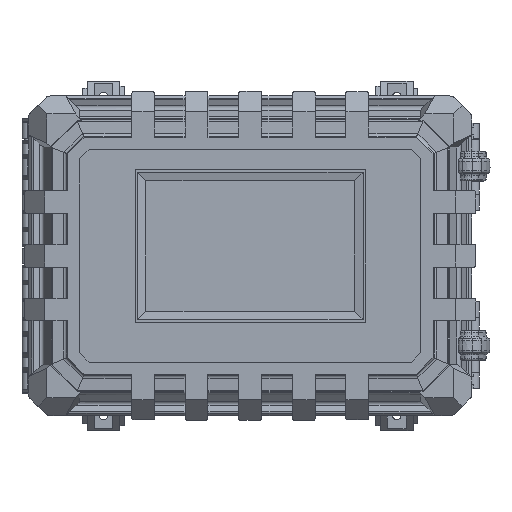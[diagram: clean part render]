
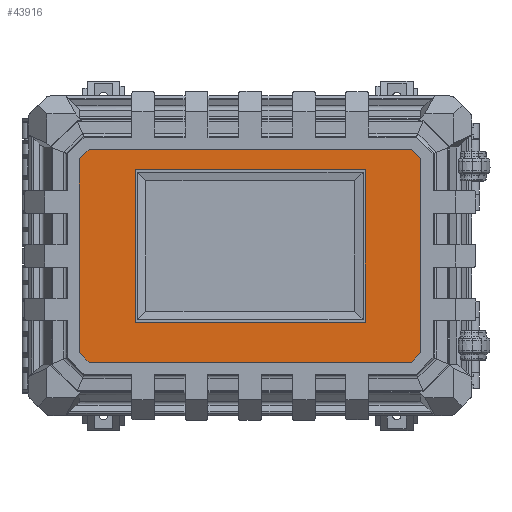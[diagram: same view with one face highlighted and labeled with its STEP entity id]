
A CAD part, top view. The second image highlights one B-rep face of the part: STEP entity #43916.
In plain terms, the highlighted planar face has unit normal (0, 0, 1).
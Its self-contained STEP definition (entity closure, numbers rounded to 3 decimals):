
#491=FACE_BOUND('',#7768,.T.);
#3444=PLANE('',#47187);
#5239=FACE_OUTER_BOUND('',#7767,.T.);
#7767=EDGE_LOOP('',(#35600,#35601,#35602,#35603,#35604,#35605,#35606,#35607));
#7768=EDGE_LOOP('',(#35608,#35609,#35610,#35611));
#11558=LINE('',#69621,#16017);
#11559=LINE('',#69623,#16018);
#11560=LINE('',#69625,#16019);
#11561=LINE('',#69627,#16020);
#11562=LINE('',#69629,#16021);
#11563=LINE('',#69631,#16022);
#11564=LINE('',#69633,#16023);
#11565=LINE('',#69634,#16024);
#11566=LINE('',#69637,#16025);
#11567=LINE('',#69639,#16026);
#11568=LINE('',#69641,#16027);
#11569=LINE('',#69642,#16028);
#16017=VECTOR('',#55729,0.394);
#16018=VECTOR('',#55730,0.394);
#16019=VECTOR('',#55731,0.394);
#16020=VECTOR('',#55732,0.394);
#16021=VECTOR('',#55733,0.394);
#16022=VECTOR('',#55734,0.394);
#16023=VECTOR('',#55735,0.394);
#16024=VECTOR('',#55736,0.394);
#16025=VECTOR('',#55737,0.394);
#16026=VECTOR('',#55738,0.394);
#16027=VECTOR('',#55739,0.394);
#16028=VECTOR('',#55740,0.394);
#20476=VERTEX_POINT('',#69619);
#20477=VERTEX_POINT('',#69620);
#20478=VERTEX_POINT('',#69622);
#20479=VERTEX_POINT('',#69624);
#20480=VERTEX_POINT('',#69626);
#20481=VERTEX_POINT('',#69628);
#20482=VERTEX_POINT('',#69630);
#20483=VERTEX_POINT('',#69632);
#20484=VERTEX_POINT('',#69635);
#20485=VERTEX_POINT('',#69636);
#20486=VERTEX_POINT('',#69638);
#20487=VERTEX_POINT('',#69640);
#25845=EDGE_CURVE('',#20476,#20477,#11558,.T.);
#25846=EDGE_CURVE('',#20478,#20476,#11559,.T.);
#25847=EDGE_CURVE('',#20479,#20478,#11560,.T.);
#25848=EDGE_CURVE('',#20480,#20479,#11561,.T.);
#25849=EDGE_CURVE('',#20481,#20480,#11562,.T.);
#25850=EDGE_CURVE('',#20482,#20481,#11563,.T.);
#25851=EDGE_CURVE('',#20483,#20482,#11564,.T.);
#25852=EDGE_CURVE('',#20477,#20483,#11565,.T.);
#25853=EDGE_CURVE('',#20484,#20485,#11566,.T.);
#25854=EDGE_CURVE('',#20486,#20484,#11567,.T.);
#25855=EDGE_CURVE('',#20487,#20486,#11568,.T.);
#25856=EDGE_CURVE('',#20485,#20487,#11569,.T.);
#35600=ORIENTED_EDGE('',*,*,#25845,.F.);
#35601=ORIENTED_EDGE('',*,*,#25846,.F.);
#35602=ORIENTED_EDGE('',*,*,#25847,.F.);
#35603=ORIENTED_EDGE('',*,*,#25848,.F.);
#35604=ORIENTED_EDGE('',*,*,#25849,.F.);
#35605=ORIENTED_EDGE('',*,*,#25850,.F.);
#35606=ORIENTED_EDGE('',*,*,#25851,.F.);
#35607=ORIENTED_EDGE('',*,*,#25852,.F.);
#35608=ORIENTED_EDGE('',*,*,#25853,.F.);
#35609=ORIENTED_EDGE('',*,*,#25854,.F.);
#35610=ORIENTED_EDGE('',*,*,#25855,.F.);
#35611=ORIENTED_EDGE('',*,*,#25856,.F.);
#43916=ADVANCED_FACE('',(#5239,#491),#3444,.F.);
#47187=AXIS2_PLACEMENT_3D('',#69618,#55727,#55728);
#55727=DIRECTION('center_axis',(0.,0.,
-1.));
#55728=DIRECTION('ref_axis',(1.,0.,0.));
#55729=DIRECTION('',(0.,-1.,0.));
#55730=DIRECTION('',(0.707,-0.707,0.));
#55731=DIRECTION('',(1.,0.,0.));
#55732=DIRECTION('',(0.707,0.707,0.));
#55733=DIRECTION('',(0.,1.,0.));
#55734=DIRECTION('',(-0.707,0.707,0.));
#55735=DIRECTION('',(-1.,0.,0.));
#55736=DIRECTION('',(-0.707,-0.707,0.));
#55737=DIRECTION('',(0.,1.,0.));
#55738=DIRECTION('',(1.,0.,0.));
#55739=DIRECTION('',(0.,-1.,0.));
#55740=DIRECTION('',(-1.,0.,0.));
#69618=CARTESIAN_POINT('Origin',(5.989,5.889,6.18));
#69619=CARTESIAN_POINT('',(13.054,9.895,6.18));
#69620=CARTESIAN_POINT('',(13.054,1.882,6.18));
#69621=CARTESIAN_POINT('',(13.054,1.882,6.18));
#69622=CARTESIAN_POINT('',(12.654,10.295,6.18));
#69623=CARTESIAN_POINT('',(12.654,10.295,6.18));
#69624=CARTESIAN_POINT('',(-0.676,10.295,6.18));
#69625=CARTESIAN_POINT('',(5.989,10.295,6.18));
#69626=CARTESIAN_POINT('',(-1.076,9.895,6.18));
#69627=CARTESIAN_POINT('',(-0.676,10.295,6.18));
#69628=CARTESIAN_POINT('',(-1.076,1.883,6.18));
#69629=CARTESIAN_POINT('',(-1.076,9.895,6.18));
#69630=CARTESIAN_POINT('',(-0.676,1.483,6.18));
#69631=CARTESIAN_POINT('',(-0.676,1.483,6.18));
#69632=CARTESIAN_POINT('',(12.654,1.482,6.18));
#69633=CARTESIAN_POINT('',(5.989,1.482,6.18));
#69634=CARTESIAN_POINT('',(12.654,1.482,6.18));
#69635=CARTESIAN_POINT('',(10.754,3.142,6.18));
#69636=CARTESIAN_POINT('',(10.754,9.445,6.18));
#69637=CARTESIAN_POINT('',(10.754,3.142,6.18));
#69638=CARTESIAN_POINT('',(1.224,3.143,6.18));
#69639=CARTESIAN_POINT('',(5.991,3.143,6.18));
#69640=CARTESIAN_POINT('',(1.224,9.446,6.18));
#69641=CARTESIAN_POINT('',(1.224,9.446,6.18));
#69642=CARTESIAN_POINT('',(5.989,9.445,6.18));
